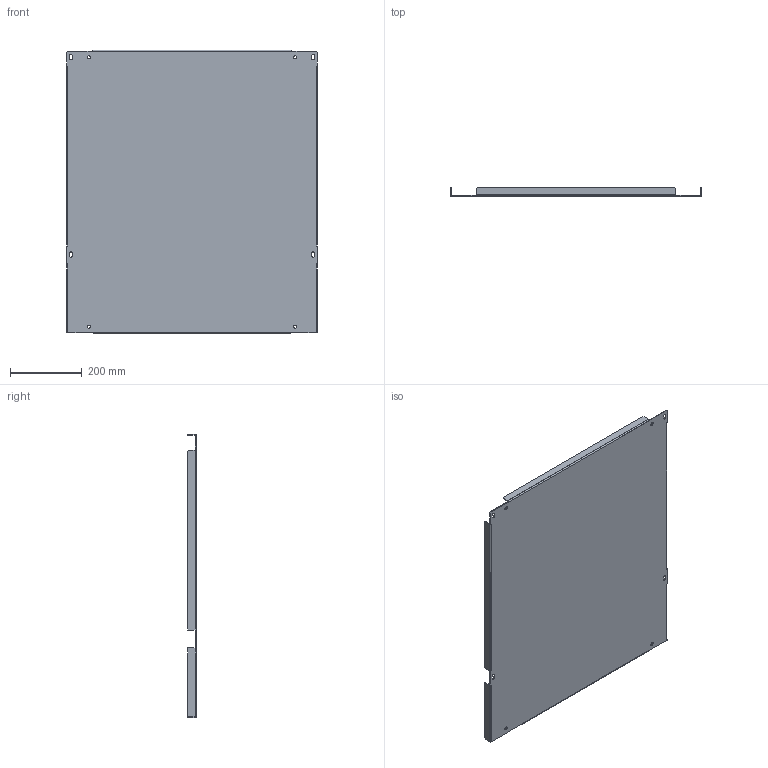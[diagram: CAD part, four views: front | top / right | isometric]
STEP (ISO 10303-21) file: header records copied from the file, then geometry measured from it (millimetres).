
FILE_DESCRIPTION (( 'STEP AP203' ), '1' );
FILE_NAME ('GCPZ08_V1.step', '2014-11-10T12:43:15', ( '' ), ( '' ), 'SwSTEP 2.0', 'SolidWorks 2014', '' );
FILE_SCHEMA (( 'CONFIG_CONTROL_DESIGN' ));
Length unit declared in the file: millimetre
Products named in the file (1): GCPZ08_V1
Bounding box: 699 x 24 x 790 mm (x, y, z)
Volume: 1504761.4 mm3; surface area: 1212636.7 mm2
Topology: 1 solids, 1 shells, 98 faces, 268 edges, 172 vertices
Faces by surface type: plane 66, cylinder 32
Entity records: 3185 total; most frequent: CARTESIAN_POINT 539, ORIENTED_EDGE 536, DIRECTION 530, EDGE_CURVE 268, VECTOR 204, LINE 204, VERTEX_POINT 172, AXIS2_PLACEMENT_3D 163
